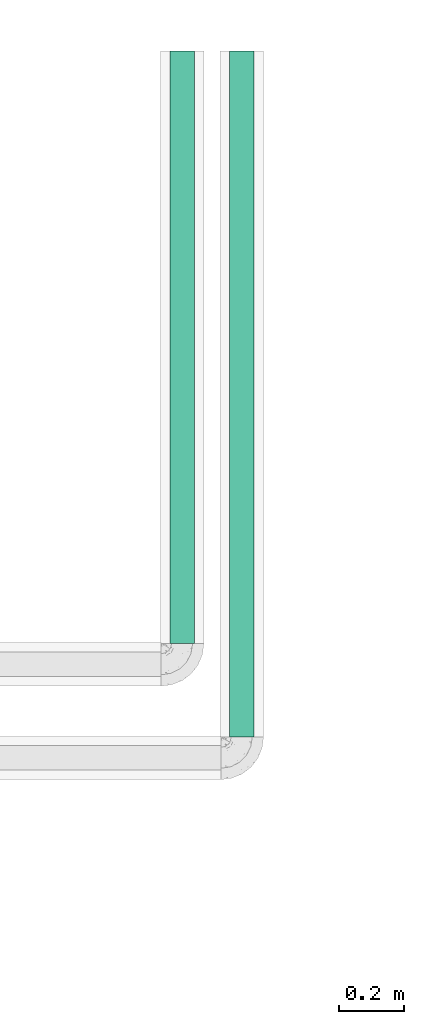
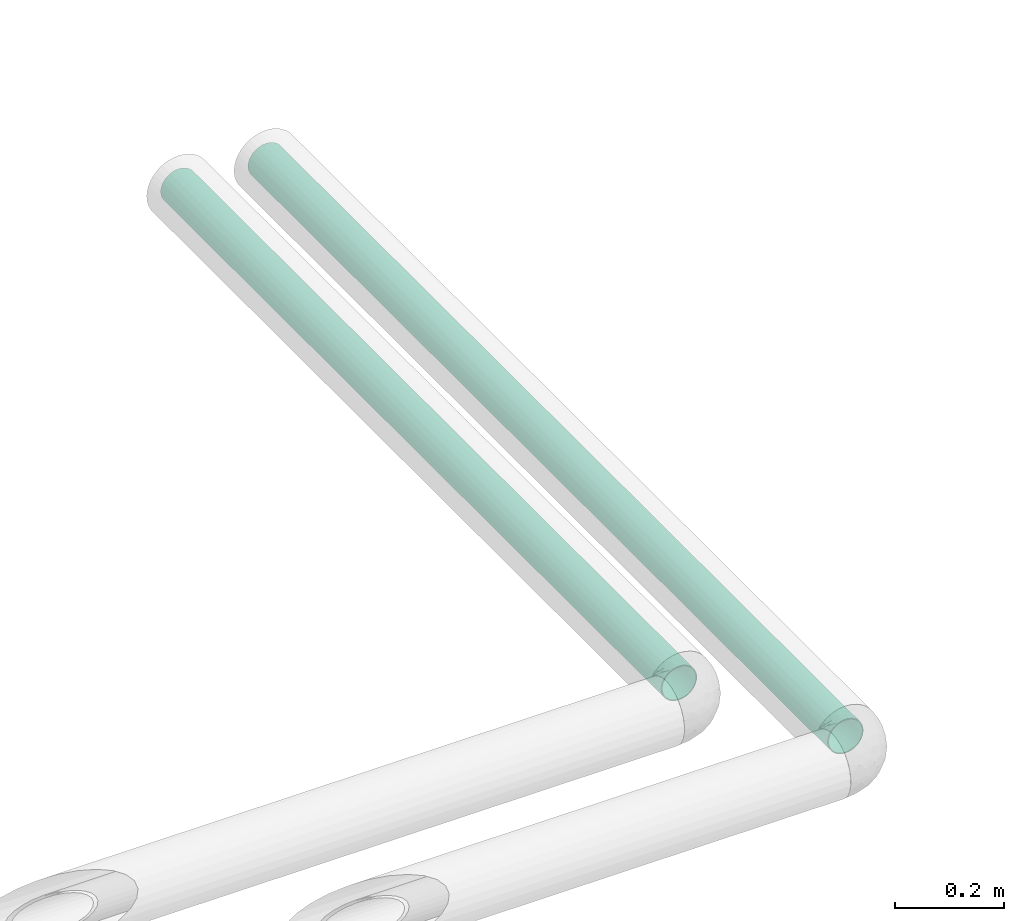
# One storey, part 109 of 156: 2 flow segments.
"""IFC2X3 building model written with IfcOpenShell, lengths in millimetres."""

from ifc_helpers import new_model, entity, si_unit, converted_unit, derived_unit, direction, frame, place, context, subcontext, project, spatial, faceted_brep, type_object, element, save


model = new_model("IFC2X3")

# Units and contexts
model_context = context("Model", 3, precision=0.01, world=frame((0.0, 4.29681676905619e-09, 0.0)), true_north=direction((4.01073788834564e-13, 1.0)))
plan_context = context("Plan", 3, precision=0.01, world=frame((0.0, 4.29681676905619e-09, 0.0)), true_north=direction((4.01073788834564e-13, 1.0)))
body_context = subcontext(model_context, "Body", "Model", "MODEL_VIEW")
ifc_project = project(units=[converted_unit("PLANEANGLEUNIT", "DEGREE", entity("IfcPositiveLengthMeasure", 0.0174532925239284), si_unit("PLANEANGLEUNIT", "RADIAN"), dimensions=[0, 0, 0, 0, 0, 0, 0]), si_unit("AREAUNIT", "SQUARE_METRE"), si_unit("LENGTHUNIT", "METRE", prefix="MILLI"), si_unit("MASSUNIT", "GRAM", prefix="KILO"), si_unit("POWERUNIT", "WATT"), si_unit("PRESSUREUNIT", "PASCAL", prefix="KILO"), si_unit("FORCEUNIT", "NEWTON", prefix="KILO"), si_unit("ELECTRICVOLTAGEUNIT", "VOLT"), si_unit("ELECTRICCURRENTUNIT", "AMPERE"), si_unit("THERMODYNAMICTEMPERATUREUNIT", "DEGREE_CELSIUS"), si_unit("TIMEUNIT", "SECOND"), si_unit("VOLUMEUNIT", "CUBIC_METRE"), derived_unit("LINEARVELOCITYUNIT", [(si_unit("LENGTHUNIT", "METRE"), 1), (si_unit("TIMEUNIT", "SECOND"), -1)]), derived_unit("VOLUMETRICFLOWRATEUNIT", [(si_unit("VOLUMEUNIT", "CUBIC_METRE"), 1), (si_unit("TIMEUNIT", "SECOND"), -1)]), derived_unit("THERMALTRANSMITTANCEUNIT", [(si_unit("POWERUNIT", "WATT"), 1), (si_unit("THERMODYNAMICTEMPERATUREUNIT", "KELVIN"), -1), (si_unit("AREAUNIT", "SQUARE_METRE"), -1)]), derived_unit("SOUNDPRESSUREUNIT", [(si_unit("PRESSUREUNIT", "PASCAL"), 1)])], contexts=[model_context, plan_context])

# Site, building, storey
site_placement = place(None, frame((0.0, -4.29681676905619e-09, 0.0), z_axis=(0.0, 0.0, 1.0), x_axis=(1.0, 0.0, 0.0)))
site = spatial("IfcSite", under=ifc_project, at=site_placement, CompositionType="ELEMENT")
building_placement = place(site_placement, frame((0.0, 4.29681676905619e-09, 0.0), z_axis=(0.0, 0.0, 1.0), x_axis=(1.0, 0.0, 0.0)))
building = spatial("IfcBuilding", under=site, at=building_placement, Name="mc-building", CompositionType="ELEMENT")
storey_placement = place(building_placement, frame((0.0, 0.0, 205200.0), z_axis=(0.0, 0.0, 1.0), x_axis=(1.0, 0.0, 0.0)))
storey = spatial("IfcBuildingStorey", under=building, at=storey_placement, Name="Nivå D + 1,2 m", CompositionType="ELEMENT", Elevation=205200.0)

# Flow segments
pipe_segment_type = type_object("IfcPipeSegmentType", Name="Stålrør normaltykke", PredefinedType="RIGIDSEGMENT")
flow_segment_1_placement = place(storey_placement, frame((331935.29993, 465664.02228, 4232.15388999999), z_axis=(0.0, 0.0, 1.0), x_axis=(0.0, 1.0, 0.0)))
element("IfcFlowSegment", 1, at=flow_segment_1_placement, inside=storey, type_object=pipe_segment_type, Name="Stålrør normaltykke", context=body_context, shape_type="Brep", body=[
    faceted_brep([(1835.97771999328, 36.0, 0.0), (1835.97771999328, 35.4530791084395, -6.25133439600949), (0.0, 35.4530791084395, -6.25133439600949), (0.0, 36.0, 0.0), (1835.97771999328, 33.8289343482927, -12.3127251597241), (0.0, 33.8289343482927, -12.3127251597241), (1835.97771999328, 31.1769145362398, -18.0), (0.0, 31.1769145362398, -18.0), (1835.97771999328, 27.5775999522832, -23.1403539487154), (0.0, 27.5775999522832, -23.1403539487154), (1835.97771999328, 23.1403539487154, -27.5775999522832), (0.0, 23.1403539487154, -27.5775999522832), (1835.97771999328, 18.0, -31.1769145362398), (0.0, 18.0, -31.1769145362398), (1835.97771999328, 12.3127251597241, -33.8289343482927), (0.0, 12.3127251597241, -33.8289343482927), (1835.97771999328, 6.25133439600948, -35.4530791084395), (0.0, 6.25133439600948, -35.4530791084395), (1835.97771999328, -6.61309271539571e-15, -36.0), (0.0, -6.61309271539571e-15, -36.0), (1835.97771999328, -6.25133439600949, -35.4530791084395), (0.0, -6.25133439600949, -35.4530791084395), (1835.97771999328, -12.3127251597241, -33.8289343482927), (0.0, -12.3127251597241, -33.8289343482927), (1835.97771999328, -18.0, -31.1769145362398), (0.0, -18.0, -31.1769145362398), (1835.97771999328, -23.1403539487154, -27.5775999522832), (0.0, -23.1403539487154, -27.5775999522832), (1835.97771999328, -27.5775999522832, -23.1403539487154), (0.0, -27.5775999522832, -23.1403539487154), (1835.97771999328, -31.1769145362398, -18.0), (0.0, -31.1769145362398, -18.0), (1835.97771999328, -33.8289343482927, -12.3127251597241), (0.0, -33.8289343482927, -12.3127251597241), (1835.97771999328, -35.4530791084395, -6.25133439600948), (0.0, -35.4530791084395, -6.25133439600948), (1835.97771999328, -36.0, 4.40872847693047e-15), (0.0, -36.0, 4.40872847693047e-15), (1835.97771999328, -35.4530791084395, 6.25133439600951), (0.0, -35.4530791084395, 6.25133439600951), (1835.97771999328, -33.8289343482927, 12.3127251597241), (0.0, -33.8289343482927, 12.3127251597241), (1835.97771999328, -31.1769145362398, 18.0), (0.0, -31.1769145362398, 18.0), (1835.97771999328, -27.5775999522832, 23.1403539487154), (0.0, -27.5775999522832, 23.1403539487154), (1835.97771999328, -23.1403539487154, 27.5775999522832), (0.0, -23.1403539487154, 27.5775999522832), (1835.97771999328, -18.0, 31.1769145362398), (0.0, -18.0, 31.1769145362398), (1835.97771999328, -12.3127251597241, 33.8289343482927), (0.0, -12.3127251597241, 33.8289343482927), (1835.97771999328, -6.25133439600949, 35.4530791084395), (0.0, -6.25133439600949, 35.4530791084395), (1835.97771999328, 2.20436423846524e-15, 36.0), (0.0, 2.20436423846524e-15, 36.0), (1835.97771999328, 6.2513343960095, 35.4530791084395), (0.0, 6.2513343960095, 35.4530791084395), (1835.97771999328, 12.3127251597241, 33.8289343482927), (0.0, 12.3127251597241, 33.8289343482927), (1835.97771999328, 18.0, 31.1769145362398), (0.0, 18.0, 31.1769145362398), (1835.97771999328, 23.1403539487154, 27.5775999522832), (0.0, 23.1403539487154, 27.5775999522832), (1835.97771999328, 27.5775999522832, 23.1403539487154), (0.0, 27.5775999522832, 23.1403539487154), (1835.97771999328, 31.1769145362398, 18.0), (0.0, 31.1769145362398, 18.0), (1835.97771999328, 33.8289343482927, 12.3127251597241), (0.0, 33.8289343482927, 12.3127251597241), (1835.97771999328, 35.4530791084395, 6.25133439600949), (0.0, 35.4530791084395, 6.25133439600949), (1835.97771999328, 37.4226946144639, -6.59863075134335), (1835.97771999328, 38.0, 0.0), (0.0, 38.0, 0.0), (0.0, 37.4226946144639, -6.59863075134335), (1835.97771999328, 37.4226946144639, 6.59863075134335), (0.0, 37.4226946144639, 6.59863075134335), (1835.97771999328, 35.7083195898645, 12.9967654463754), (0.0, 35.7083195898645, 12.9967654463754), (1835.97771999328, 32.9089653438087, 19.0), (0.0, 32.9089653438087, 19.0), (1835.97771999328, 29.1096888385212, 24.4259291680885), (0.0, 29.1096888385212, 24.4259291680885), (1835.97771999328, 24.4259291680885, 29.1096888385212), (0.0, 24.4259291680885, 29.1096888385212), (1835.97771999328, 19.0, 32.9089653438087), (0.0, 19.0, 32.9089653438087), (1835.97771999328, 12.9967654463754, 35.7083195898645), (0.0, 12.9967654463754, 35.7083195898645), (1835.97771999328, 6.59863075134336, 37.4226946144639), (0.0, 6.59863075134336, 37.4226946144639), (1835.97771999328, 2.32682891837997e-15, 38.0), (0.0, 2.32682891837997e-15, 38.0), (1835.97771999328, -6.59863075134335, 37.4226946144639), (0.0, -6.59863075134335, 37.4226946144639), (1835.97771999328, -12.9967654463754, 35.7083195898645), (0.0, -12.9967654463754, 35.7083195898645), (1835.97771999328, -19.0, 32.9089653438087), (0.0, -19.0, 32.9089653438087), (1835.97771999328, -24.4259291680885, 29.1096888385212), (0.0, -24.4259291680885, 29.1096888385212), (1835.97771999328, -29.1096888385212, 24.4259291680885), (0.0, -29.1096888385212, 24.4259291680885), (1835.97771999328, -32.9089653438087, 19.0), (0.0, -32.9089653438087, 19.0), (1835.97771999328, -35.7083195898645, 12.9967654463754), (0.0, -35.7083195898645, 12.9967654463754), (1835.97771999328, -37.4226946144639, 6.59863075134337), (0.0, -37.4226946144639, 6.59863075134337), (1835.97771999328, -38.0, 4.65365783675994e-15), (0.0, -38.0, 4.65365783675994e-15), (1835.97771999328, -37.4226946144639, -6.59863075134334), (0.0, -37.4226946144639, -6.59863075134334), (1835.97771999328, -35.7083195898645, -12.9967654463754), (0.0, -35.7083195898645, -12.9967654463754), (1835.97771999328, -32.9089653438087, -19.0), (0.0, -32.9089653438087, -19.0), (1835.97771999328, -29.1096888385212, -24.4259291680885), (0.0, -29.1096888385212, -24.4259291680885), (1835.97771999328, -24.4259291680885, -29.1096888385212), (0.0, -24.4259291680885, -29.1096888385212), (1835.97771999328, -19.0, -32.9089653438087), (0.0, -19.0, -32.9089653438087), (1835.97771999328, -12.9967654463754, -35.7083195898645), (0.0, -12.9967654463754, -35.7083195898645), (1835.97771999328, -6.59863075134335, -37.4226946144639), (0.0, -6.59863075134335, -37.4226946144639), (1835.97771999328, -6.98048675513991e-15, -38.0), (0.0, -6.98048675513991e-15, -38.0), (1835.97771999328, 6.59863075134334, -37.4226946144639), (0.0, 6.59863075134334, -37.4226946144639), (1835.97771999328, 12.9967654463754, -35.7083195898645), (0.0, 12.9967654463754, -35.7083195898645), (1835.97771999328, 19.0, -32.9089653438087), (0.0, 19.0, -32.9089653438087), (1835.97771999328, 24.4259291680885, -29.1096888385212), (0.0, 24.4259291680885, -29.1096888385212), (1835.97771999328, 29.1096888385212, -24.4259291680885), (0.0, 29.1096888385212, -24.4259291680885), (1835.97771999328, 32.9089653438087, -19.0), (0.0, 32.9089653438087, -19.0), (1835.97771999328, 35.7083195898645, -12.9967654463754), (0.0, 35.7083195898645, -12.9967654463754)], [[[0, 1, 2, 3]], [[1, 4, 5, 2]], [[4, 6, 7, 5]], [[6, 8, 9, 7]], [[8, 10, 11, 9]], [[10, 12, 13, 11]], [[12, 14, 15, 13]], [[14, 16, 17, 15]], [[16, 18, 19, 17]], [[18, 20, 21, 19]], [[20, 22, 23, 21]], [[22, 24, 25, 23]], [[24, 26, 27, 25]], [[26, 28, 29, 27]], [[28, 30, 31, 29]], [[30, 32, 33, 31]], [[32, 34, 35, 33]], [[34, 36, 37, 35]], [[36, 38, 39, 37]], [[38, 40, 41, 39]], [[40, 42, 43, 41]], [[42, 44, 45, 43]], [[44, 46, 47, 45]], [[46, 48, 49, 47]], [[48, 50, 51, 49]], [[50, 52, 53, 51]], [[52, 54, 55, 53]], [[54, 56, 57, 55]], [[56, 58, 59, 57]], [[58, 60, 61, 59]], [[60, 62, 63, 61]], [[62, 64, 65, 63]], [[64, 66, 67, 65]], [[66, 68, 69, 67]], [[68, 70, 71, 69]], [[70, 0, 3, 71]], [[72, 73, 74, 75]], [[73, 76, 77, 74]], [[76, 78, 79, 77]], [[78, 80, 81, 79]], [[80, 82, 83, 81]], [[82, 84, 85, 83]], [[84, 86, 87, 85]], [[86, 88, 89, 87]], [[88, 90, 91, 89]], [[90, 92, 93, 91]], [[92, 94, 95, 93]], [[94, 96, 97, 95]], [[96, 98, 99, 97]], [[98, 100, 101, 99]], [[100, 102, 103, 101]], [[102, 104, 105, 103]], [[104, 106, 107, 105]], [[106, 108, 109, 107]], [[108, 110, 111, 109]], [[110, 112, 113, 111]], [[112, 114, 115, 113]], [[114, 116, 117, 115]], [[116, 118, 119, 117]], [[118, 120, 121, 119]], [[120, 122, 123, 121]], [[122, 124, 125, 123]], [[124, 126, 127, 125]], [[126, 128, 129, 127]], [[128, 130, 131, 129]], [[130, 132, 133, 131]], [[132, 134, 135, 133]], [[134, 136, 137, 135]], [[136, 138, 139, 137]], [[138, 140, 141, 139]], [[140, 142, 143, 141]], [[142, 72, 75, 143]], [[75, 74, 77, 79, 81, 83, 85, 87, 89, 91, 93, 95, 97, 99, 101, 103, 105, 107, 109, 111, 113, 115, 117, 119, 121, 123, 125, 127, 129, 131, 133, 135, 137, 139, 141, 143], [3, 2, 5, 7, 9, 11, 13, 15, 17, 19, 21, 23, 25, 27, 29, 31, 33, 35, 37, 39, 41, 43, 45, 47, 49, 51, 53, 55, 57, 59, 61, 63, 65, 67, 69, 71]], [[142, 140, 138, 136, 134, 132, 130, 128, 126, 124, 122, 120, 118, 116, 114, 112, 110, 108, 106, 104, 102, 100, 98, 96, 94, 92, 90, 88, 86, 84, 82, 80, 78, 76, 73, 72], [70, 68, 66, 64, 62, 60, 58, 56, 54, 52, 50, 48, 46, 44, 42, 40, 38, 36, 34, 32, 30, 28, 26, 24, 22, 20, 18, 16, 14, 12, 10, 8, 6, 4, 1, 0]]], orient=[[False], [False], [False], [False], [False], [False], [False], [False], [False], [False], [False], [False], [False], [False], [False], [False], [False], [False], [False], [False], [False], [False], [False], [False], [False], [False], [False], [False], [False], [False], [False], [False], [False], [False], [False], [False], [False], [False], [False], [False], [False], [False], [False], [False], [False], [False], [False], [False], [False], [False], [False], [False], [False], [False], [False], [False], [False], [False], [False], [False], [False], [False], [False], [False], [False], [False], [False], [False], [False], [False], [False], [False], [False, False], [False, False]]),
])
flow_segment_2_placement = place(storey_placement, frame((332120.29993, 465374.02229, 4224.29453000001), z_axis=(0.0, 0.0, 1.0), x_axis=(0.0, 1.0, 0.0)))
element("IfcFlowSegment", 2, at=flow_segment_2_placement, inside=storey, type_object=pipe_segment_type, Name="Stålrør normaltykke", context=body_context, shape_type="Brep", body=[
    faceted_brep([(2125.97770999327, 36.0, 0.0), (2125.97770999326, 35.4530791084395, -6.25133439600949), (0.0, 35.4530791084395, -6.25133439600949), (0.0, 36.0, 0.0), (2125.97770999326, 33.8289343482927, -12.3127251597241), (0.0, 33.8289343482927, -12.3127251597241), (2125.97770999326, 31.1769145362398, -18.0), (0.0, 31.1769145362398, -18.0), (2125.97770999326, 27.5775999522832, -23.1403539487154), (0.0, 27.5775999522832, -23.1403539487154), (2125.97770999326, 23.1403539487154, -27.5775999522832), (0.0, 23.1403539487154, -27.5775999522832), (2125.97770999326, 18.0, -31.1769145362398), (0.0, 18.0, -31.1769145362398), (2125.97770999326, 12.3127251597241, -33.8289343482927), (0.0, 12.3127251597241, -33.8289343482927), (2125.97770999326, 6.25133439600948, -35.4530791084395), (0.0, 6.25133439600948, -35.4530791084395), (2125.97770999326, -6.61309271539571e-15, -36.0), (0.0, -6.61309271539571e-15, -36.0), (2125.97770999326, -6.25133439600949, -35.4530791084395), (0.0, -6.25133439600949, -35.4530791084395), (2125.97770999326, -12.3127251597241, -33.8289343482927), (0.0, -12.3127251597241, -33.8289343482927), (2125.97770999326, -18.0, -31.1769145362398), (0.0, -18.0, -31.1769145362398), (2125.97770999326, -23.1403539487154, -27.5775999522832), (0.0, -23.1403539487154, -27.5775999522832), (2125.97770999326, -27.5775999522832, -23.1403539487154), (0.0, -27.5775999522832, -23.1403539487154), (2125.97770999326, -31.1769145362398, -18.0), (0.0, -31.1769145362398, -18.0), (2125.97770999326, -33.8289343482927, -12.3127251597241), (0.0, -33.8289343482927, -12.3127251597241), (2125.97770999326, -35.4530791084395, -6.25133439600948), (0.0, -35.4530791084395, -6.25133439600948), (2125.97770999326, -36.0, 4.40872847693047e-15), (0.0, -36.0, 4.40872847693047e-15), (2125.97770999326, -35.4530791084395, 6.25133439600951), (0.0, -35.4530791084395, 6.25133439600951), (2125.97770999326, -33.8289343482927, 12.3127251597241), (0.0, -33.8289343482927, 12.3127251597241), (2125.97770999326, -31.1769145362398, 18.0), (0.0, -31.1769145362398, 18.0), (2125.97770999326, -27.5775999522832, 23.1403539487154), (0.0, -27.5775999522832, 23.1403539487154), (2125.97770999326, -23.1403539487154, 27.5775999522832), (0.0, -23.1403539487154, 27.5775999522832), (2125.97770999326, -18.0, 31.1769145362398), (0.0, -18.0, 31.1769145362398), (2125.97770999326, -12.3127251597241, 33.8289343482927), (0.0, -12.3127251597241, 33.8289343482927), (2125.97770999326, -6.25133439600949, 35.4530791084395), (0.0, -6.25133439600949, 35.4530791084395), (2125.97770999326, 2.20436423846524e-15, 36.0), (0.0, 2.20436423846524e-15, 36.0), (2125.97770999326, 6.2513343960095, 35.4530791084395), (0.0, 6.2513343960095, 35.4530791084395), (2125.97770999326, 12.3127251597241, 33.8289343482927), (0.0, 12.3127251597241, 33.8289343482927), (2125.97770999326, 18.0, 31.1769145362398), (0.0, 18.0, 31.1769145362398), (2125.97770999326, 23.1403539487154, 27.5775999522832), (0.0, 23.1403539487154, 27.5775999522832), (2125.97770999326, 27.5775999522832, 23.1403539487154), (0.0, 27.5775999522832, 23.1403539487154), (2125.97770999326, 31.1769145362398, 18.0), (0.0, 31.1769145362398, 18.0), (2125.97770999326, 33.8289343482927, 12.3127251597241), (0.0, 33.8289343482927, 12.3127251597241), (2125.97770999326, 35.4530791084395, 6.25133439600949), (0.0, 35.4530791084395, 6.25133439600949), (2125.97770999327, 37.4226946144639, -6.59863075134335), (2125.97770999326, 38.0, 0.0), (0.0, 38.0, 0.0), (0.0, 37.4226946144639, -6.59863075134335), (2125.97770999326, 37.4226946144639, 6.59863075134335), (0.0, 37.4226946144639, 6.59863075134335), (2125.97770999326, 35.7083195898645, 12.9967654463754), (0.0, 35.7083195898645, 12.9967654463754), (2125.97770999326, 32.9089653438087, 19.0), (0.0, 32.9089653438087, 19.0), (2125.97770999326, 29.1096888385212, 24.4259291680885), (0.0, 29.1096888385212, 24.4259291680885), (2125.97770999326, 24.4259291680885, 29.1096888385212), (0.0, 24.4259291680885, 29.1096888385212), (2125.97770999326, 19.0, 32.9089653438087), (0.0, 19.0, 32.9089653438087), (2125.97770999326, 12.9967654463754, 35.7083195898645), (0.0, 12.9967654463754, 35.7083195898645), (2125.97770999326, 6.59863075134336, 37.4226946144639), (0.0, 6.59863075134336, 37.4226946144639), (2125.97770999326, 2.32682891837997e-15, 38.0), (0.0, 2.32682891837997e-15, 38.0), (2125.97770999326, -6.59863075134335, 37.4226946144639), (0.0, -6.59863075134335, 37.4226946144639), (2125.97770999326, -12.9967654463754, 35.7083195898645), (0.0, -12.9967654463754, 35.7083195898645), (2125.97770999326, -19.0, 32.9089653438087), (0.0, -19.0, 32.9089653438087), (2125.97770999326, -24.4259291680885, 29.1096888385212), (0.0, -24.4259291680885, 29.1096888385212), (2125.97770999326, -29.1096888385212, 24.4259291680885), (0.0, -29.1096888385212, 24.4259291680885), (2125.97770999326, -32.9089653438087, 19.0), (0.0, -32.9089653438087, 19.0), (2125.97770999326, -35.7083195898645, 12.9967654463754), (0.0, -35.7083195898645, 12.9967654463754), (2125.97770999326, -37.4226946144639, 6.59863075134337), (0.0, -37.4226946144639, 6.59863075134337), (2125.97770999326, -38.0, 4.65365783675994e-15), (0.0, -38.0, 4.65365783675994e-15), (2125.97770999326, -37.4226946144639, -6.59863075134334), (0.0, -37.4226946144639, -6.59863075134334), (2125.97770999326, -35.7083195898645, -12.9967654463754), (0.0, -35.7083195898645, -12.9967654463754), (2125.97770999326, -32.9089653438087, -19.0), (0.0, -32.9089653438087, -19.0), (2125.97770999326, -29.1096888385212, -24.4259291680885), (0.0, -29.1096888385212, -24.4259291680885), (2125.97770999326, -24.4259291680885, -29.1096888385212), (0.0, -24.4259291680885, -29.1096888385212), (2125.97770999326, -19.0, -32.9089653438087), (0.0, -19.0, -32.9089653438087), (2125.97770999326, -12.9967654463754, -35.7083195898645), (0.0, -12.9967654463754, -35.7083195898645), (2125.97770999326, -6.59863075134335, -37.4226946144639), (0.0, -6.59863075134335, -37.4226946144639), (2125.97770999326, -6.98048675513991e-15, -38.0), (0.0, -6.98048675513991e-15, -38.0), (2125.97770999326, 6.59863075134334, -37.4226946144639), (0.0, 6.59863075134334, -37.4226946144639), (2125.97770999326, 12.9967654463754, -35.7083195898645), (0.0, 12.9967654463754, -35.7083195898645), (2125.97770999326, 19.0, -32.9089653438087), (0.0, 19.0, -32.9089653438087), (2125.97770999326, 24.4259291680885, -29.1096888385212), (0.0, 24.4259291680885, -29.1096888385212), (2125.97770999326, 29.1096888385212, -24.4259291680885), (0.0, 29.1096888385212, -24.4259291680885), (2125.97770999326, 32.9089653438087, -19.0), (0.0, 32.9089653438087, -19.0), (2125.97770999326, 35.7083195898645, -12.9967654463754), (0.0, 35.7083195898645, -12.9967654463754)], [[[0, 1, 2, 3]], [[1, 4, 5, 2]], [[4, 6, 7, 5]], [[6, 8, 9, 7]], [[8, 10, 11, 9]], [[10, 12, 13, 11]], [[12, 14, 15, 13]], [[14, 16, 17, 15]], [[16, 18, 19, 17]], [[18, 20, 21, 19]], [[20, 22, 23, 21]], [[22, 24, 25, 23]], [[24, 26, 27, 25]], [[26, 28, 29, 27]], [[28, 30, 31, 29]], [[30, 32, 33, 31]], [[32, 34, 35, 33]], [[34, 36, 37, 35]], [[36, 38, 39, 37]], [[38, 40, 41, 39]], [[40, 42, 43, 41]], [[42, 44, 45, 43]], [[44, 46, 47, 45]], [[46, 48, 49, 47]], [[48, 50, 51, 49]], [[50, 52, 53, 51]], [[52, 54, 55, 53]], [[54, 56, 57, 55]], [[56, 58, 59, 57]], [[58, 60, 61, 59]], [[60, 62, 63, 61]], [[62, 64, 65, 63]], [[64, 66, 67, 65]], [[66, 68, 69, 67]], [[68, 70, 71, 69]], [[70, 0, 3, 71]], [[72, 73, 74, 75]], [[73, 76, 77, 74]], [[76, 78, 79, 77]], [[78, 80, 81, 79]], [[80, 82, 83, 81]], [[82, 84, 85, 83]], [[84, 86, 87, 85]], [[86, 88, 89, 87]], [[88, 90, 91, 89]], [[90, 92, 93, 91]], [[92, 94, 95, 93]], [[94, 96, 97, 95]], [[96, 98, 99, 97]], [[98, 100, 101, 99]], [[100, 102, 103, 101]], [[102, 104, 105, 103]], [[104, 106, 107, 105]], [[106, 108, 109, 107]], [[108, 110, 111, 109]], [[110, 112, 113, 111]], [[112, 114, 115, 113]], [[114, 116, 117, 115]], [[116, 118, 119, 117]], [[118, 120, 121, 119]], [[120, 122, 123, 121]], [[122, 124, 125, 123]], [[124, 126, 127, 125]], [[126, 128, 129, 127]], [[128, 130, 131, 129]], [[130, 132, 133, 131]], [[132, 134, 135, 133]], [[134, 136, 137, 135]], [[136, 138, 139, 137]], [[138, 140, 141, 139]], [[140, 142, 143, 141]], [[142, 72, 75, 143]], [[75, 74, 77, 79, 81, 83, 85, 87, 89, 91, 93, 95, 97, 99, 101, 103, 105, 107, 109, 111, 113, 115, 117, 119, 121, 123, 125, 127, 129, 131, 133, 135, 137, 139, 141, 143], [3, 2, 5, 7, 9, 11, 13, 15, 17, 19, 21, 23, 25, 27, 29, 31, 33, 35, 37, 39, 41, 43, 45, 47, 49, 51, 53, 55, 57, 59, 61, 63, 65, 67, 69, 71]], [[142, 140, 138, 136, 134, 132, 130, 128, 126, 124, 122, 120, 118, 116, 114, 112, 110, 108, 106, 104, 102, 100, 98, 96, 94, 92, 90, 88, 86, 84, 82, 80, 78, 76, 73, 72], [70, 68, 66, 64, 62, 60, 58, 56, 54, 52, 50, 48, 46, 44, 42, 40, 38, 36, 34, 32, 30, 28, 26, 24, 22, 20, 18, 16, 14, 12, 10, 8, 6, 4, 1, 0]]], orient=[[False], [False], [False], [False], [False], [False], [False], [False], [False], [False], [False], [False], [False], [False], [False], [False], [False], [False], [False], [False], [False], [False], [False], [False], [False], [False], [False], [False], [False], [False], [False], [False], [False], [False], [False], [False], [False], [False], [False], [False], [False], [False], [False], [False], [False], [False], [False], [False], [False], [False], [False], [False], [False], [False], [False], [False], [False], [False], [False], [False], [False], [False], [False], [False], [False], [False], [False], [False], [False], [False], [False], [False], [False, False], [False, False]]),
])

save(model, "model.ifc")
